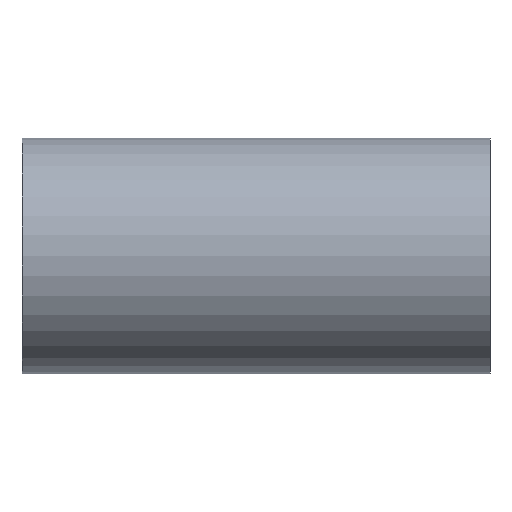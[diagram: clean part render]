
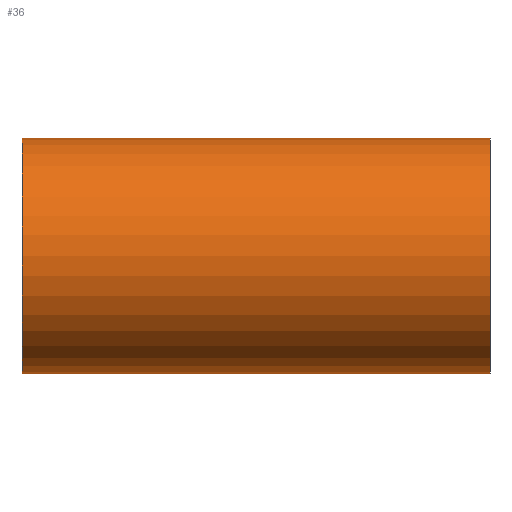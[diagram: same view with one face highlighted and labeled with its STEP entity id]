
A CAD part, top view. The second image highlights one B-rep face of the part: STEP entity #36.
In plain terms, the highlighted cylindrical face has radius 1.206 mm (diameter 2.413 mm), a partial arc.
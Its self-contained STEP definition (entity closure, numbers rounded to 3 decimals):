
#36=ADVANCED_FACE('',(#42),#78,.T.);
#42=FACE_OUTER_BOUND('',#50,.F.);
#50=EDGE_LOOP('',(#71,#72,#73,#74));
#71=ORIENTED_EDGE('',*,*,#101,.F.);
#72=ORIENTED_EDGE('',*,*,#106,.T.);
#73=ORIENTED_EDGE('',*,*,#102,.T.);
#74=ORIENTED_EDGE('',*,*,#105,.T.);
#78=CYLINDRICAL_SURFACE('',#138,1.207);
#89=LINE('',#191,#93);
#90=LINE('',#192,#94);
#93=VECTOR('',#152,4.8);
#94=VECTOR('',#153,4.8);
#101=EDGE_CURVE('',#115,#118,#89,.T.);
#102=EDGE_CURVE('',#116,#117,#90,.T.);
#105=EDGE_CURVE('',#117,#118,#113,.T.);
#106=EDGE_CURVE('',#115,#116,#114,.T.);
#113=CIRCLE('',#131,1.207);
#114=CIRCLE('',#132,1.207);
#115=VERTEX_POINT('',#177);
#116=VERTEX_POINT('',#178);
#117=VERTEX_POINT('',#179);
#118=VERTEX_POINT('',#180);
#131=AXIS2_PLACEMENT_3D('',#195,#158,#159);
#132=AXIS2_PLACEMENT_3D('',#196,#160,#161);
#138=AXIS2_PLACEMENT_3D('',#202,#172,#173);
#152=DIRECTION('',(1.,0.,0.));
#153=DIRECTION('',(1.,0.,0.));
#158=DIRECTION('',(1.,0.,0.));
#159=DIRECTION('',(0.,1.,0.));
#160=DIRECTION('',(-1.,0.,0.));
#161=DIRECTION('',(0.,-1.,0.));
#172=DIRECTION('',(1.,0.,0.));
#173=DIRECTION('',(0.,1.,0.));
#177=CARTESIAN_POINT('',(249.549,39.056,204.184));
#178=CARTESIAN_POINT('',(249.549,41.469,204.184));
#179=CARTESIAN_POINT('',(254.349,41.469,204.184));
#180=CARTESIAN_POINT('',(254.349,39.056,204.184));
#191=CARTESIAN_POINT('',(249.549,39.056,204.184));
#192=CARTESIAN_POINT('',(249.549,41.469,204.184));
#195=CARTESIAN_POINT('',(254.349,40.263,204.184));
#196=CARTESIAN_POINT('',(249.549,40.263,204.184));
#202=CARTESIAN_POINT('',(249.549,40.263,204.184));
